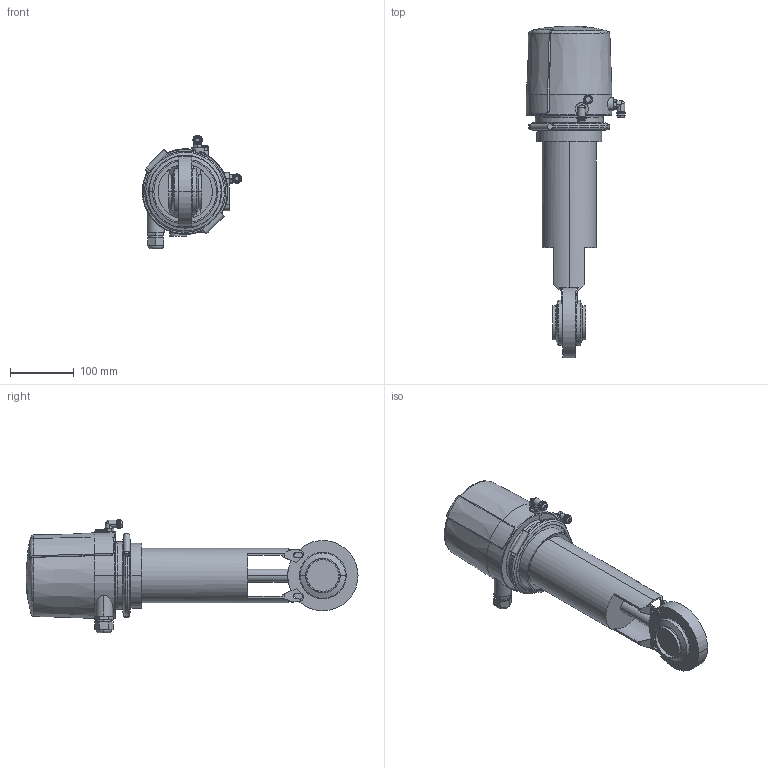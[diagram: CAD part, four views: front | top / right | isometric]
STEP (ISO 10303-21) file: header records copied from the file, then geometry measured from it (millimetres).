
FILE_DESCRIPTION(('Creo Elements/Direct Modeling STEP Export'),'2;1');
FILE_NAME('SV1-50-CU4-12S.stp','2013-02-21T13:08:24',(''),(''),'Creo Elements/Direct Modeling STEP processor for AP214 (Solid Model)','Creo Elements/Direct Modeling 17.0D 15-Jul-2011 (C) Parametric Technology GmbH','');
FILE_SCHEMA(('AUTOMOTIVE_DESIGN { 1 0 10303 214 1 1 1 1 }'));
Length unit declared in the file: millimetre
Products named in the file (3): SV1-50-FZ-12S; CU41-mit-T-Adapter; SV1-50-CU4-12S.stp
Assembly tree (2 placements, depth 2):
  SV1-50-CU4-12S.stp
    CU41-mit-T-Adapter
    SV1-50-FZ-12S
Bounding box: 155.4 x 519.5 x 177.6 mm (x, y, z)
Volume: 3369829.2 mm3; surface area: 249607.1 mm2
Topology: 2 solids, 8 shells, 451 faces, 1141 edges, 719 vertices
Faces by surface type: plane 209, cylinder 139, torus 47, cone 40, bspline 10, sphere 6
Entity records: 21446 total; most frequent: CARTESIAN_POINT 10367, ORIENTED_EDGE 2294, DIRECTION 2003, EDGE_CURVE 1139, AXIS2_PLACEMENT_3D 757, VERTEX_POINT 719, EDGE_LOOP 500, VECTOR 489
